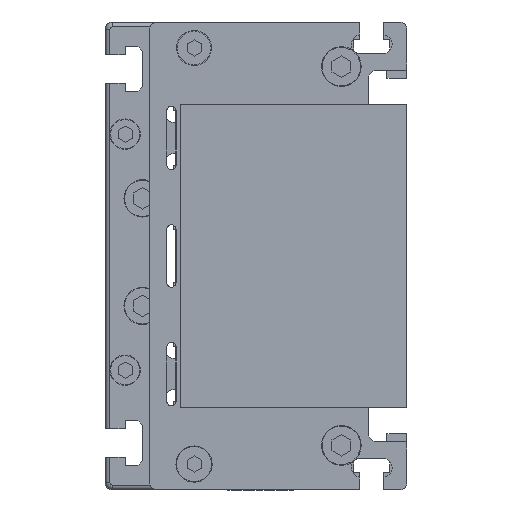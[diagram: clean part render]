
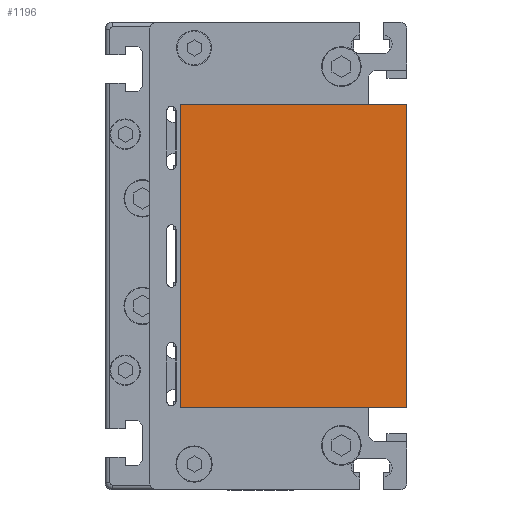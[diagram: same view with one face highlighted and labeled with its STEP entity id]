
A CAD part, left-side view. The second image highlights one B-rep face of the part: STEP entity #1196.
In plain terms, the highlighted planar face has unit normal (-1, 0, 0) as drawn and (0, 0, 1) by its records, which use the part's own axes.
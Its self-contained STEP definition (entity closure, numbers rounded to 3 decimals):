
#1196 = ADVANCED_FACE ( 'NONE', ( #10687 ), #12076, .F. ) ;
#1617 = CARTESIAN_POINT ( 'NONE',  ( 130., 0., 55. ) ) ;
#1999 = CARTESIAN_POINT ( 'NONE',  ( 0., 97., 55. ) ) ;
#2627 = DIRECTION ( 'NONE',  ( 0., 1., 0. ) ) ;
#2701 = EDGE_CURVE ( 'NONE', #5481, #13609, #5963, .T. ) ;
#4433 = EDGE_CURVE ( 'NONE', #15016, #7450, #7470, .T. ) ;
#5481 = VERTEX_POINT ( 'NONE', #1617 ) ;
#5963 = LINE ( 'NONE', #14314, #9432 ) ;
#6048 = DIRECTION ( 'NONE',  ( 0., -1., 0. ) ) ;
#7450 = VERTEX_POINT ( 'NONE', #1999 ) ;
#7470 = LINE ( 'NONE', #13038, #18922 ) ;
#8387 = EDGE_CURVE ( 'NONE', #15016, #5481, #11307, .T. ) ;
#8567 = CARTESIAN_POINT ( 'NONE',  ( 0., 0., 55. ) ) ;
#8875 = LINE ( 'NONE', #10053, #12899 ) ;
#9028 = CARTESIAN_POINT ( 'NONE',  ( 130., 97., 55. ) ) ;
#9372 = EDGE_CURVE ( 'NONE', #7450, #13609, #8875, .T. ) ;
#9420 = DIRECTION ( 'NONE',  ( 0., 0., -1. ) ) ;
#9432 = VECTOR ( 'NONE', #9760, 1000. ) ;
#9760 = DIRECTION ( 'NONE',  ( -1., 0., 0. ) ) ;
#10025 = CARTESIAN_POINT ( 'NONE',  ( 130., 48.5, 55. ) ) ;
#10053 = CARTESIAN_POINT ( 'NONE',  ( 0., 48.5, 55. ) ) ;
#10687 = FACE_OUTER_BOUND ( 'NONE', #16012, .T. ) ;
#10820 = VECTOR ( 'NONE', #6048, 1000. ) ;
#11307 = LINE ( 'NONE', #11999, #10820 ) ;
#11522 = DIRECTION ( 'NONE',  ( -1., 0., 0. ) ) ;
#11813 = ORIENTED_EDGE ( 'NONE', *, *, #9372, .T. ) ;
#11999 = CARTESIAN_POINT ( 'NONE',  ( 130., 48.5, 55. ) ) ;
#12076 = PLANE ( 'NONE',  #12199 ) ;
#12199 = AXIS2_PLACEMENT_3D ( 'NONE', #10025, #9420, #2627 ) ;
#12899 = VECTOR ( 'NONE', #18981, 1000. ) ;
#13038 = CARTESIAN_POINT ( 'NONE',  ( 130., 97., 55. ) ) ;
#13609 = VERTEX_POINT ( 'NONE', #8567 ) ;
#14016 = ORIENTED_EDGE ( 'NONE', *, *, #8387, .F. ) ;
#14314 = CARTESIAN_POINT ( 'NONE',  ( 130., 0., 55. ) ) ;
#15016 = VERTEX_POINT ( 'NONE', #9028 ) ;
#15071 = ORIENTED_EDGE ( 'NONE', *, *, #2701, .F. ) ;
#16012 = EDGE_LOOP ( 'NONE', ( #11813, #15071, #14016, #16951 ) ) ;
#16951 = ORIENTED_EDGE ( 'NONE', *, *, #4433, .T. ) ;
#18922 = VECTOR ( 'NONE', #11522, 1000. ) ;
#18981 = DIRECTION ( 'NONE',  ( 0., -1., 0. ) ) ;
